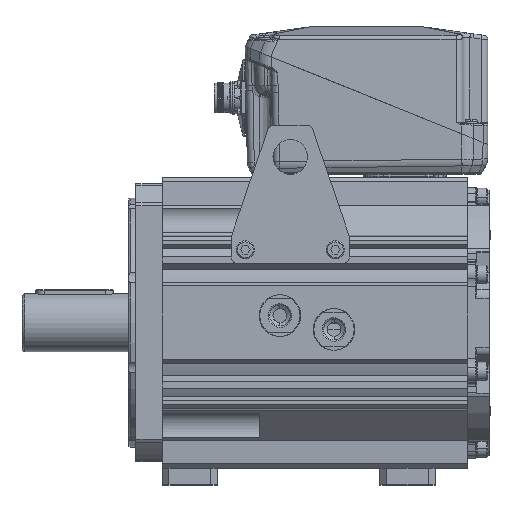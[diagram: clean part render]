
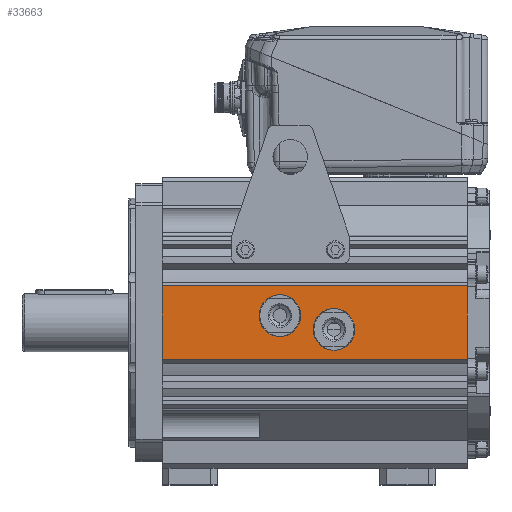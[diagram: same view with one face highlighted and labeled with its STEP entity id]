
A CAD part, top view. The second image highlights one B-rep face of the part: STEP entity #33663.
In plain terms, the highlighted planar face has unit normal (0, 0, 1).
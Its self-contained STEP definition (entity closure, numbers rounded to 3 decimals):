
#31078=DIRECTION('',(1.,0.,0.));
#31079=VECTOR('',#31078,220.);
#31080=CARTESIAN_POINT('',(101.,-26.5,105.));
#31081=LINE('',#31080,#31079);
#31082=DIRECTION('',(0.,1.,0.));
#31083=VECTOR('',#31082,53.);
#31084=CARTESIAN_POINT('',(101.,-26.5,105.));
#31085=LINE('',#31084,#31083);
#31086=DIRECTION('',(1.,0.,0.));
#31087=VECTOR('',#31086,220.);
#31088=CARTESIAN_POINT('',(101.,26.5,105.));
#31089=LINE('',#31088,#31087);
#31090=DIRECTION('',(0.,-1.,0.));
#31091=VECTOR('',#31090,53.);
#31092=CARTESIAN_POINT('',(321.,26.5,105.));
#31093=LINE('',#31092,#31091);
#31126=CARTESIAN_POINT('',(186.,5.,105.));
#31127=DIRECTION('',(0.,0.,-1.));
#31128=DIRECTION('',(1.,0.,0.));
#31129=AXIS2_PLACEMENT_3D('',#31126,#31127,#31128);
#31131=CARTESIAN_POINT('',(186.,5.,105.));
#31132=DIRECTION('',(0.,0.,-1.));
#31133=DIRECTION('',(-1.,0.,0.));
#31134=AXIS2_PLACEMENT_3D('',#31131,#31132,#31133);
#31136=CARTESIAN_POINT('',(225.,-5.,105.));
#31137=DIRECTION('',(0.,0.,-1.));
#31138=DIRECTION('',(1.,0.,0.));
#31139=AXIS2_PLACEMENT_3D('',#31136,#31137,#31138);
#31141=CARTESIAN_POINT('',(225.,-5.,105.));
#31142=DIRECTION('',(0.,0.,-1.));
#31143=DIRECTION('',(-1.,0.,0.));
#31144=AXIS2_PLACEMENT_3D('',#31141,#31142,#31143);
#32228=CARTESIAN_POINT('',(101.,26.5,105.));
#32229=VERTEX_POINT('',#32228);
#32236=CARTESIAN_POINT('',(321.,26.5,105.));
#32237=VERTEX_POINT('',#32236);
#32278=CARTESIAN_POINT('',(101.,-26.5,105.));
#32279=VERTEX_POINT('',#32278);
#32286=CARTESIAN_POINT('',(321.,-26.5,105.));
#32287=VERTEX_POINT('',#32286);
#32496=CARTESIAN_POINT('',(193.5,5.,105.));
#32497=CARTESIAN_POINT('',(178.5,5.,105.));
#32498=VERTEX_POINT('',#32496);
#32499=VERTEX_POINT('',#32497);
#32504=CARTESIAN_POINT('',(232.5,-5.,105.));
#32506=VERTEX_POINT('',#32504);
#32508=CARTESIAN_POINT('',(217.5,-5.,105.));
#32510=VERTEX_POINT('',#32508);
#33638=CARTESIAN_POINT('',(101.,62.,105.));
#33639=DIRECTION('',(0.,0.,1.));
#33640=DIRECTION('',(0.,-1.,0.));
#33641=AXIS2_PLACEMENT_3D('',#33638,#33639,#33640);
#33642=PLANE('',#33641);
#33644=ORIENTED_EDGE('',*,*,#33643,.F.);
#33645=ORIENTED_EDGE('',*,*,#32697,.T.);
#33647=ORIENTED_EDGE('',*,*,#33646,.T.);
#33648=ORIENTED_EDGE('',*,*,#33069,.T.);
#33649=EDGE_LOOP('',(#33644,#33645,#33647,#33648));
#33650=FACE_OUTER_BOUND('',#33649,.F.);
#33652=ORIENTED_EDGE('',*,*,#33651,.F.);
#33654=ORIENTED_EDGE('',*,*,#33653,.F.);
#33655=EDGE_LOOP('',(#33652,#33654));
#33656=FACE_BOUND('',#33655,.F.);
#33658=ORIENTED_EDGE('',*,*,#33657,.F.);
#33660=ORIENTED_EDGE('',*,*,#33659,.F.);
#33661=EDGE_LOOP('',(#33658,#33660));
#33662=FACE_BOUND('',#33661,.F.);
#33663=ADVANCED_FACE('',(#33650,#33656,#33662),#33642,.T.);
#31130=CIRCLE('',#31129,7.5);
#31135=CIRCLE('',#31134,7.5);
#31140=CIRCLE('',#31139,7.5);
#31145=CIRCLE('',#31144,7.5);
#32697=EDGE_CURVE('',#32279,#32229,#31085,.T.);
#33069=EDGE_CURVE('',#32237,#32287,#31093,.T.);
#33643=EDGE_CURVE('',#32279,#32287,#31081,.T.);
#33646=EDGE_CURVE('',#32229,#32237,#31089,.T.);
#33651=EDGE_CURVE('',#32498,#32499,#31130,.T.);
#33653=EDGE_CURVE('',#32499,#32498,#31135,.T.);
#33657=EDGE_CURVE('',#32506,#32510,#31140,.T.);
#33659=EDGE_CURVE('',#32510,#32506,#31145,.T.);
